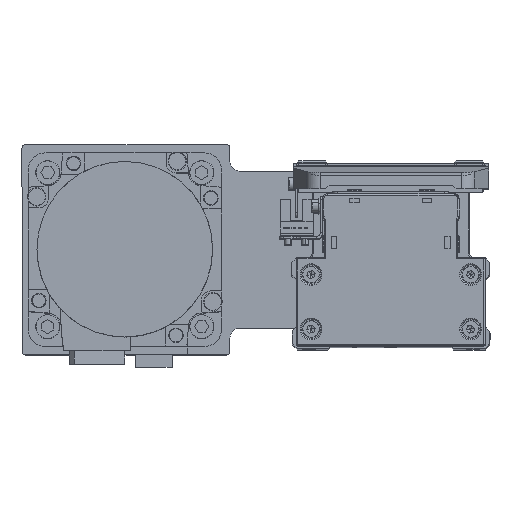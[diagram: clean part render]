
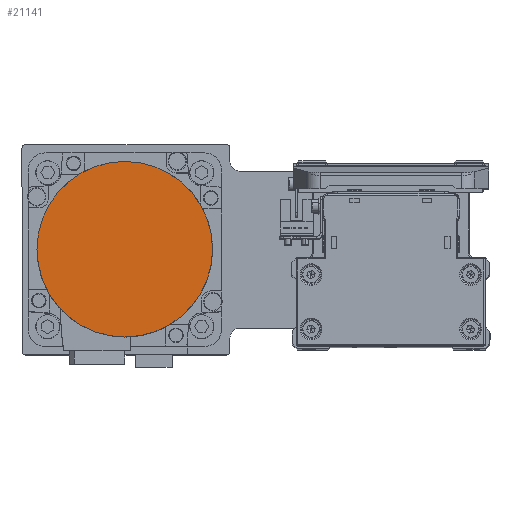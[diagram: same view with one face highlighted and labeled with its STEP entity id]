
A CAD part, top view. The second image highlights one B-rep face of the part: STEP entity #21141.
In plain terms, the highlighted planar face has unit normal (0, 0, 1) as drawn and (0, 0, -1) by its records, which use the part's own axes.
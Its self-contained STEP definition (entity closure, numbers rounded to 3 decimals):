
#900 = DIRECTION ( 'NONE',  ( 1., 0., 0. ) ) ;
#1595 = AXIS2_PLACEMENT_3D ( 'NONE', #37180, #10093, #22161 ) ;
#3055 = ORIENTED_EDGE ( 'NONE', *, *, #4132, .F. ) ;
#3546 = DIRECTION ( 'NONE',  ( 0., 0., 1. ) ) ;
#3707 = CARTESIAN_POINT ( 'NONE',  ( 0., 36.3, -122.2 ) ) ;
#3854 = PLANE ( 'NONE',  #21967 ) ;
#4132 = EDGE_CURVE ( 'NONE', #11246, #38737, #31563, .T. ) ;
#8963 = ORIENTED_EDGE ( 'NONE', *, *, #31593, .F. ) ;
#10093 = DIRECTION ( 'NONE',  ( 0., 0., 1. ) ) ;
#10973 = CARTESIAN_POINT ( 'NONE',  ( 0., -36.3, -122.2 ) ) ;
#11246 = VERTEX_POINT ( 'NONE', #3707 ) ;
#14526 = AXIS2_PLACEMENT_3D ( 'NONE', #30621, #3546, #15602 ) ;
#15602 = DIRECTION ( 'NONE',  ( 0., 1., 0. ) ) ;
#15914 = CARTESIAN_POINT ( 'NONE',  ( 0., 0., -122.2 ) ) ;
#18630 = CIRCLE ( 'NONE', #1595, 36.3 ) ;
#21141 = ADVANCED_FACE ( 'NONE', ( #30933 ), #3854, .F. ) ;
#21967 = AXIS2_PLACEMENT_3D ( 'NONE', #15914, #27951, #900 ) ;
#22161 = DIRECTION ( 'NONE',  ( 0., -1., 0. ) ) ;
#27106 = EDGE_LOOP ( 'NONE', ( #3055, #8963 ) ) ;
#27951 = DIRECTION ( 'NONE',  ( 0., 0., 1. ) ) ;
#30621 = CARTESIAN_POINT ( 'NONE',  ( 0., 0., -122.2 ) ) ;
#30933 = FACE_OUTER_BOUND ( 'NONE', #27106, .T. ) ;
#31563 = CIRCLE ( 'NONE', #14526, 36.3 ) ;
#31593 = EDGE_CURVE ( 'NONE', #38737, #11246, #18630, .T. ) ;
#37180 = CARTESIAN_POINT ( 'NONE',  ( 0., 0., -122.2 ) ) ;
#38737 = VERTEX_POINT ( 'NONE', #10973 ) ;
